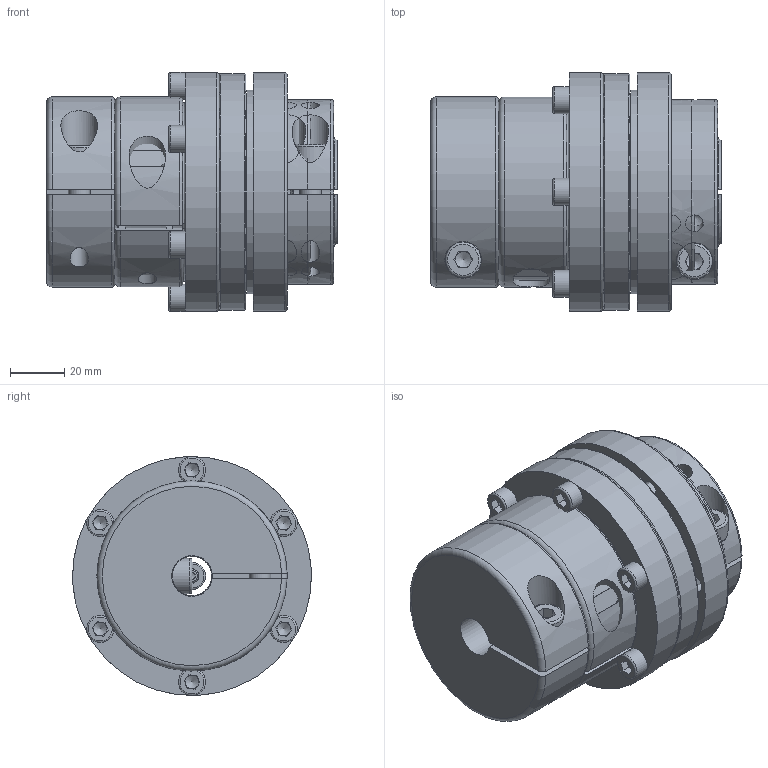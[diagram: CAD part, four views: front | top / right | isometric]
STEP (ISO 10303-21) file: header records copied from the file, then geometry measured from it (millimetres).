
FILE_DESCRIPTION( ( 'Unknown' ), '1' );
FILE_NAME( 'F:/JAKOB-STEP+IGES-Dateien/STEP-Dateien/SKB-EK/SKB-EK 60.stp', 'Unknown', ( 'Unknown' ), ( 'Unknown' ), 'XStep 1.0', 'Unknown', ' ' );
FILE_SCHEMA( ( 'CONFIG_CONTROL_DESIGN' ) );
Length unit declared in the file: millimetre
Products named in the file (10): Assem1; SKB 60; 23917262; KT102264; KT100967; KT101716; KT100051; Elastomerteil 3; kt101732
Bounding box: 107 x 88 x 88 mm (x, y, z)
Surface area: 288188.4 mm2
Topology: 28 solids, 28 shells, 1277 faces, 3584 edges, 2291 vertices
Faces by surface type: plane 435, cylinder 432, cone 198, torus 167, sphere 45
Full cylindrical faces by diameter (mm): 2 x6, 4.2 x3, 5 x37, 6 x7, 6.4 x12, 6.5 x9, 6.8 x5, 8 x4, 8.5 x3, 8.6 x2, 10 x7, 13 x4, 13.5 x5, 14.5 x2, 17 x3, 30 x4, 40.5 x2, 42.5 x3, 44.8 x3, 45 x6, 46 x3, 49 x3, 52.3 x6, 60.8 x6, 65 x2, 68 x8, 72 x6, 74 x3, 74.8 x3, 83 x3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
Entity records: 17494 total; most frequent: CARTESIAN_POINT 5471, DIRECTION 2418, ORIENTED_EDGE 2348, EDGE_CURVE 1174, AXIS2_PLACEMENT_3D 1045, VERTEX_POINT 804, EDGE_LOOP 654, CIRCLE 558
